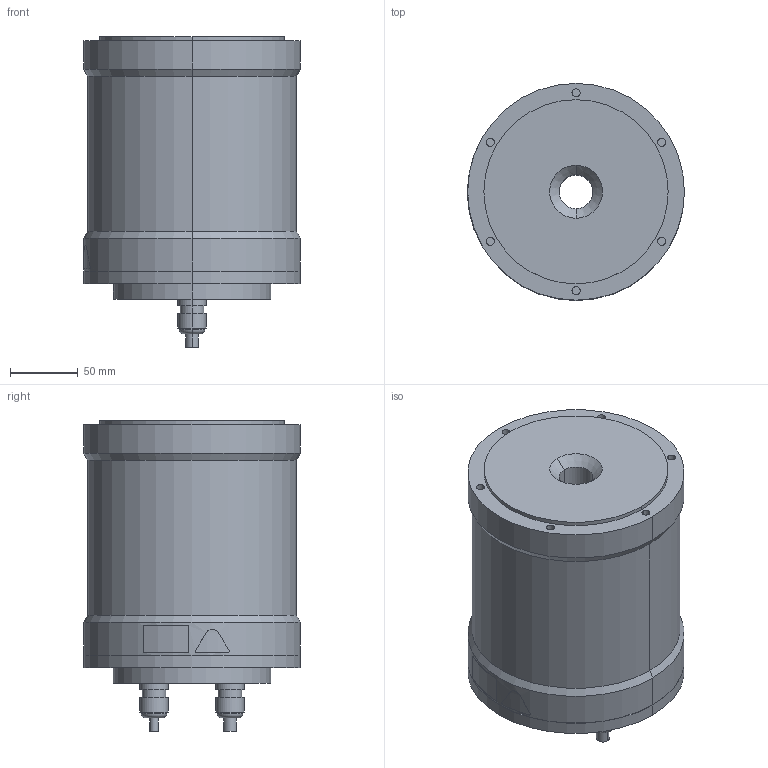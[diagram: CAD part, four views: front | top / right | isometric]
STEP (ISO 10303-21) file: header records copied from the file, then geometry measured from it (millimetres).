
FILE_DESCRIPTION (( 'STEP AP203' ), '1' );
FILE_NAME ('sgm7d_45g_c5_.STEP', '2016-02-22T09:22:48', ( '' ), ( '' ), 'SwSTEP 2.0', 'SolidWorks 2010', '' );
FILE_SCHEMA (( 'CONFIG_CONTROL_DESIGN' ));
Length unit declared in the file: millimetre
Products named in the file (1): sgm7d_45g_c5_
Bounding box: 160.06 x 160 x 229.4 mm (x, y, z)
Volume: 3510488 mm3; surface area: 157885.9 mm2
Topology: 1 solids, 1 shells, 211 faces, 469 edges, 308 vertices
Faces by surface type: cylinder 122, plane 74, cone 6, bspline 5, torus 4
Entity records: 6268 total; most frequent: CARTESIAN_POINT 1284, DIRECTION 1123, ORIENTED_EDGE 938, EDGE_CURVE 469, AXIS2_PLACEMENT_3D 463, VERTEX_POINT 308, EDGE_LOOP 261, CIRCLE 256
